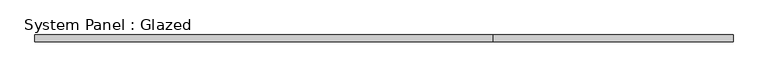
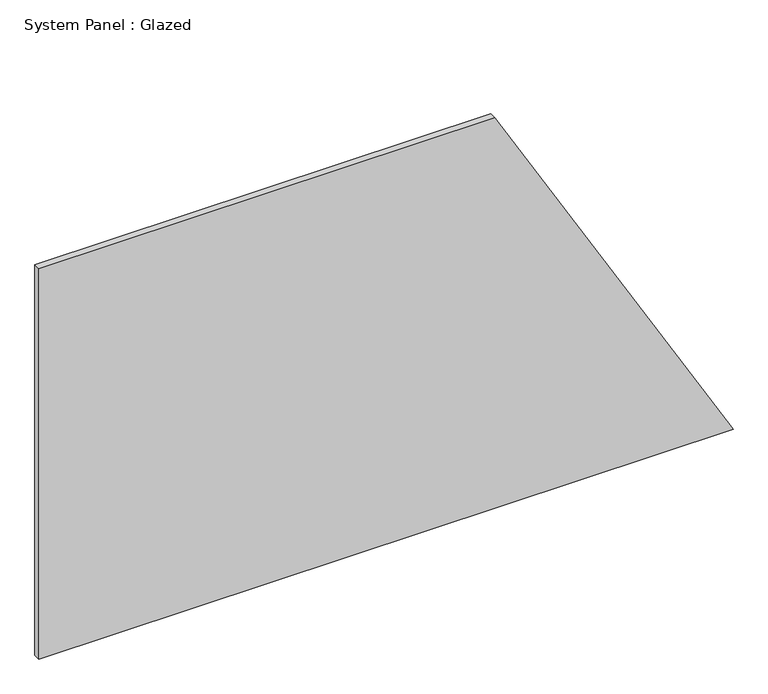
"""IFC4 building model written with IfcOpenShell, lengths in millimetres: plate geometry, System Panel : Glazed."""

from ifc_helpers import new_model, si_unit, frame, origin, place, context, project, spatial, polyline, outline, extrude, source, transform, mapped, element, save


def system_panel_glazed_06145104(model_context):
    return source(origin(), model_context, "Body", "SweptSolid", [
        extrude(outline(polyline([(0.0, -1281.9328571), (0.0, 1281.9328571), (1524.0, 402.0510469), (1524.0, -1281.9328571), (0.0, -1281.9328571)])), frame((0.0, 19.05, 0.0), z_axis=(0.0, 1.0, 0.0), x_axis=(0.0, 0.0, 1.0)), (0.0, 0.0, 1.0), 25.4),
    ])


if __name__ == "__main__":
    model = new_model("IFC4")
    model_context = context("Model", 3, world=origin())
    ifc_project = project(units=[si_unit("LENGTHUNIT", "METRE", prefix="MILLI")], contexts=[model_context])
    site = spatial("IfcSite", under=ifc_project)
    building = spatial("IfcBuilding", under=site)
    placement = place(None, origin())
    system_panel_glazed_shape = system_panel_glazed_06145104(model_context)
    element("IfcPlate", 1, ObjectType="System Panel : Glazed", at=placement, inside=building, context=model_context, shape_type="MappedRepresentation", body=[
        mapped(system_panel_glazed_shape, transform((0.0, 0.0, 0.0), x_axis=(1.0, 0.0, 0.0), y_axis=(0.0, 1.0, 0.0), z_axis=(0.0, 0.0, 1.0))),
    ])
    save(model, "model.ifc")
